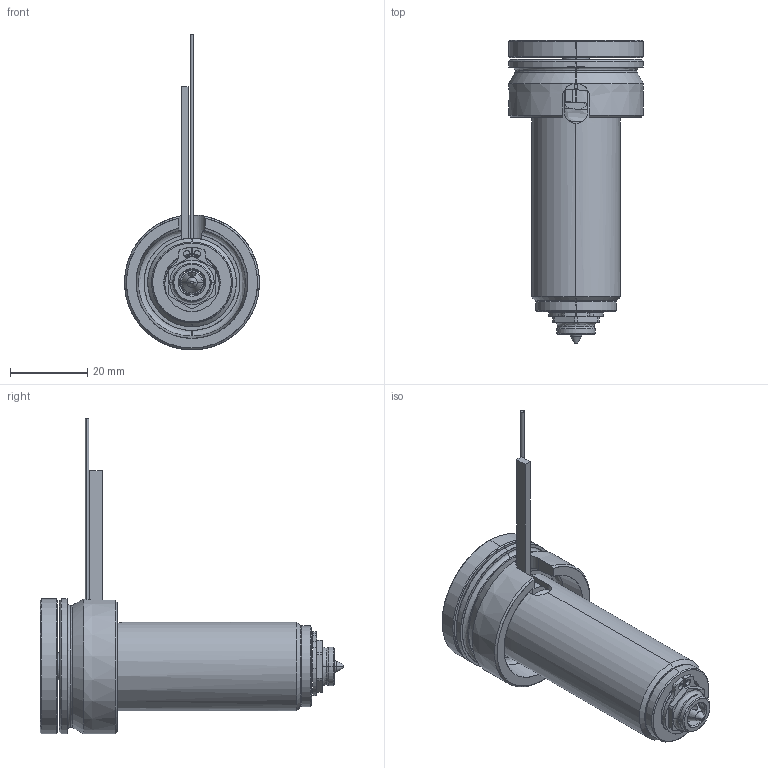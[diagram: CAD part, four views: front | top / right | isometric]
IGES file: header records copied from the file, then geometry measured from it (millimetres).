
Start section: SolidWorks IGES file using analytic representation for surfaces
Global section: file name: C:\Documents and Settings\ws-20\Desktop\TEM\UGEP3051-S-A-0 [Øf-0.70 ØC-7.0].IGS; native system: SolidWorks 2012; preprocessor: SolidWorks 2012; author: ws-20; date: 120402.143133; units: millimetre
Bounding box: 35 x 78.8 x 81.9 mm (x, y, z)
Surface area: 18366.6 mm2 (no closed solid volume)
Topology: 0 solids, 0 shells, 141 faces, 2216 edges, 2216 vertices
Faces by surface type: revolution 87, bspline 54
